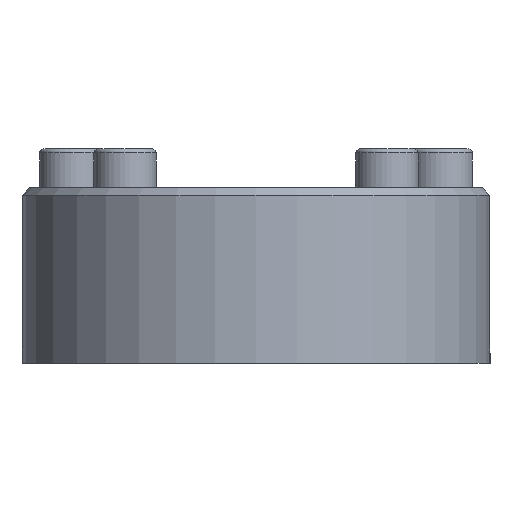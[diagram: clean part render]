
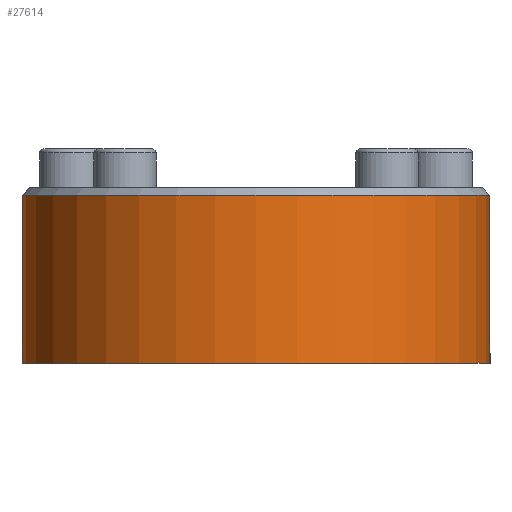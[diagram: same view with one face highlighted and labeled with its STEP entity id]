
A CAD part, front view. The second image highlights one B-rep face of the part: STEP entity #27614.
In plain terms, the highlighted cylindrical face has radius 60 mm (diameter 120 mm), a partial arc.
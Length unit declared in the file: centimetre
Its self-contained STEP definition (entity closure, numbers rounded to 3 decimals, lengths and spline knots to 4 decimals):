
#1651=CYLINDRICAL_SURFACE('',#29155,6.);
#3330=FACE_OUTER_BOUND('',#4961,.T.);
#4961=EDGE_LOOP('',(#20559,#20560,#20561,#20562));
#7197=LINE('',#39624,#10069);
#7198=LINE('',#39627,#10070);
#10069=VECTOR('',#31523,4.3);
#10070=VECTOR('',#31526,4.3);
#12050=CIRCLE('',#29156,6.);
#12051=CIRCLE('',#29157,6.);
#13458=VERTEX_POINT('',#39620);
#13459=VERTEX_POINT('',#39621);
#13460=VERTEX_POINT('',#39623);
#13461=VERTEX_POINT('',#39625);
#16212=EDGE_CURVE('',#13458,#13459,#12050,.T.);
#16213=EDGE_CURVE('',#13458,#13460,#7197,.T.);
#16214=EDGE_CURVE('',#13461,#13460,#12051,.T.);
#16215=EDGE_CURVE('',#13459,#13461,#7198,.T.);
#20559=ORIENTED_EDGE('',*,*,#16212,.F.);
#20560=ORIENTED_EDGE('',*,*,#16213,.T.);
#20561=ORIENTED_EDGE('',*,*,#16214,.F.);
#20562=ORIENTED_EDGE('',*,*,#16215,.F.);
#27614=ADVANCED_FACE('',(#3330),#1651,.T.);
#29155=AXIS2_PLACEMENT_3D('',#39619,#31519,#31520);
#29156=AXIS2_PLACEMENT_3D('',#39622,#31521,#31522);
#29157=AXIS2_PLACEMENT_3D('',#39626,#31524,#31525);
#31519=DIRECTION('center_axis',(0.,0.,
1.));
#31520=DIRECTION('ref_axis',(1.,0.,0.));
#31521=DIRECTION('center_axis',(0.,0.,
-1.));
#31522=DIRECTION('ref_axis',(1.,0.,0.));
#31523=DIRECTION('',(0.,0.,1.));
#31524=DIRECTION('center_axis',(0.,0.,
1.));
#31525=DIRECTION('ref_axis',(-1.,0.,0.));
#31526=DIRECTION('',(0.,0.,1.));
#39619=CARTESIAN_POINT('Origin',(0.,-28.5,-3.3));
#39620=CARTESIAN_POINT('',(6.,-28.5,-3.3));
#39621=CARTESIAN_POINT('',(-6.,-28.5,-3.3));
#39622=CARTESIAN_POINT('Origin',(0.,-28.5,-3.3));
#39623=CARTESIAN_POINT('',(6.,-28.5,1.));
#39624=CARTESIAN_POINT('',(6.,-28.5,-3.3));
#39625=CARTESIAN_POINT('',(-6.,-28.5,1.));
#39626=CARTESIAN_POINT('Origin',(0.,-28.5,1.));
#39627=CARTESIAN_POINT('',(-6.,-28.5,-3.3));
